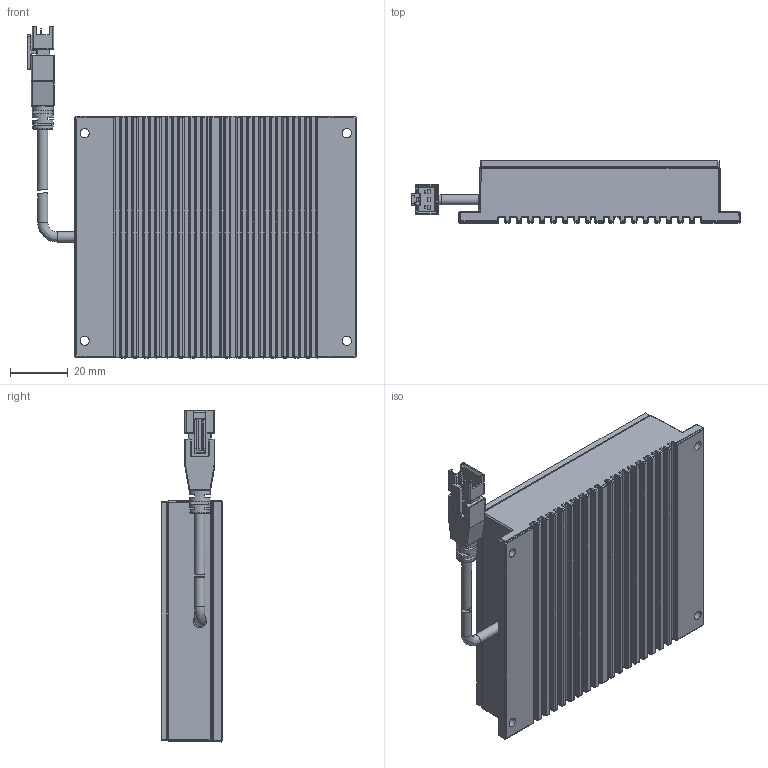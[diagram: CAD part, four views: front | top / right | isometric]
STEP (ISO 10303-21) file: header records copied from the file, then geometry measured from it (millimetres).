
FILE_DESCRIPTION (( 'STEP AP214' ), '1' );
FILE_NAME ('CST-PHFS7070-¼òÒ×3DÍ¼.STEP', '2021-08-16T02:08:09', ( '' ), ( '' ), 'SwSTEP 2.0', 'SolidWorks 2018', '' );
FILE_SCHEMA (( 'AUTOMOTIVE_DESIGN' ));
Length unit declared in the file: millimetre
Products named in the file (2): CST-PHFS7070-潠眢3D芞
Bounding box: 114.44 x 21.44 x 115.22 mm (x, y, z)
Surface area: 37655.3 mm2 (no closed solid volume)
Topology: 0 solids, 7 shells, 971 faces, 2508 edges, 1402 vertices
Faces by surface type: cylinder 470, plane 275, sphere 126, bspline 91, cone 5, torus 4
Full cylindrical faces by diameter (mm): 2.3 x4, 3.2 x4, 3.5 x3
Entity records: 40426 total; most frequent: CARTESIAN_POINT 7827, DIRECTION 4786, ORIENTED_EDGE 4306, EDGE_CURVE 2361, AXIS2_PLACEMENT_3D 1770, VERTEX_POINT 1336, VECTOR 1246, LINE 1246
